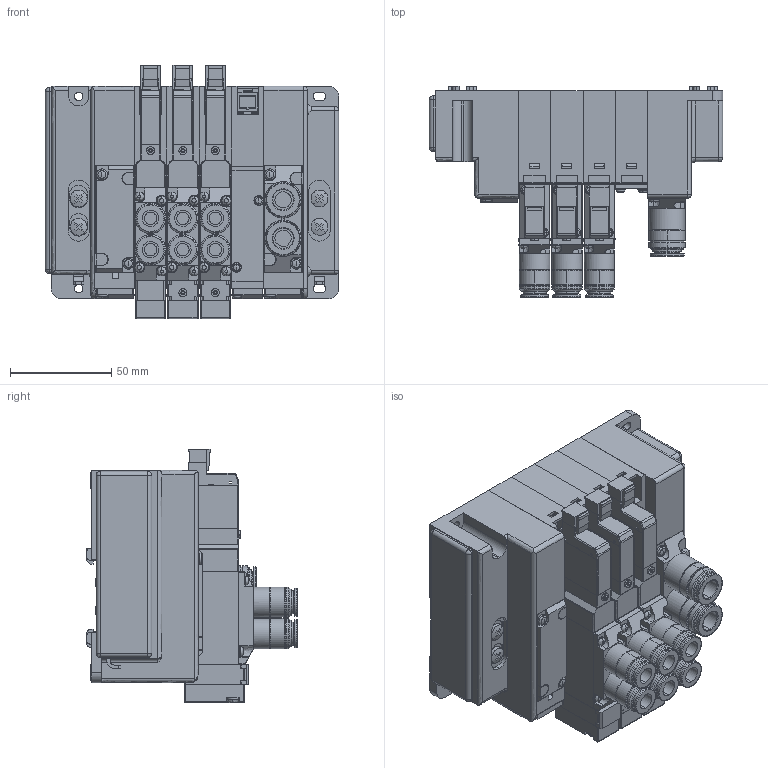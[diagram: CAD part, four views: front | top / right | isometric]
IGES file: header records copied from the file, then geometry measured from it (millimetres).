
Start section: ------------------------------------------------------------------------
Global section: file name: D:\ICADMX\tmp\trans3d_spg\CVICAD02.5220.F15M4XN-JR-DN_16501.igs; native system: spGate; preprocessor: ver12.6.6; author: Unknown; organization: Unknown; date: 210712.184733; units: millimetre
Bounding box: 145 x 104.2 x 125.5 mm (x, y, z)
Volume: 800826.9 mm3; surface area: 208024.8 mm2
Topology: 37 solids, 37 shells, 3530 faces, 9189 edges, 5912 vertices
Faces by surface type: bspline 3530
